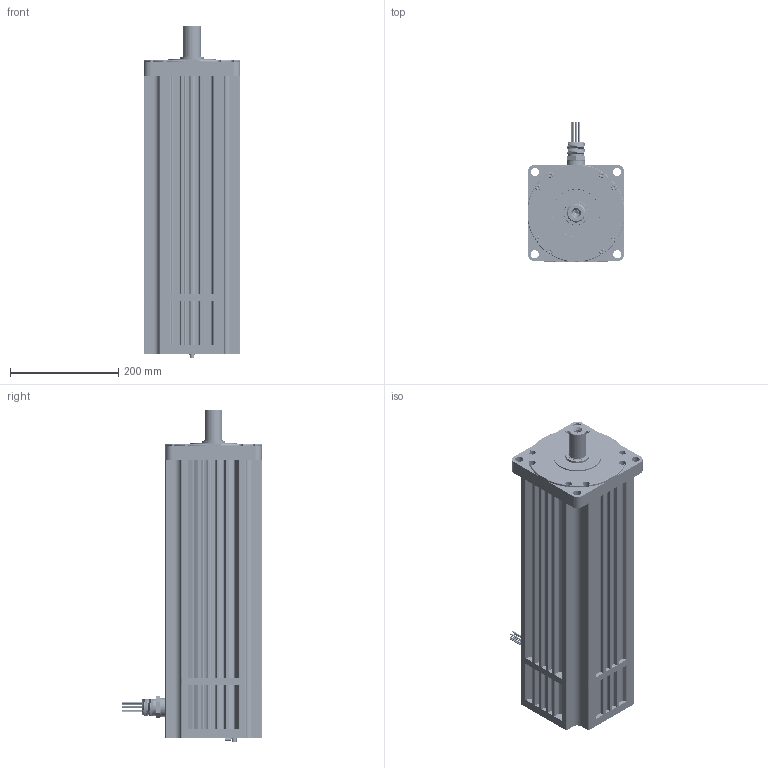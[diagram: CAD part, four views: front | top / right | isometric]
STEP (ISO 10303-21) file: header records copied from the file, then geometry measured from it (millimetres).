
FILE_DESCRIPTION (( 'STEP AP203' ), '1' );
FILE_NAME ('074640A.step', '2022-06-13T19:14:45', ( '' ), ( '' ), 'SwSTEP 2.0', 'SolidWorks 2019', '' );
FILE_SCHEMA (( 'CONFIG_CONTROL_DESIGN' ));
Length unit declared in the file: inch
Products named in the file (1): 074640A
Bounding box: 177.8 x 257.55 x 613.17 mm (x, y, z)
Surface area: 2089925 mm2 (no closed solid volume)
Topology: 0 solids, 166 shells, 6696 faces, 17479 edges, 11141 vertices
Faces by surface type: cylinder 2970, plane 2794, cone 483, torus 229, bspline 220
Entity records: 223504 total; most frequent: CARTESIAN_POINT 57133, DIRECTION 35824, ORIENTED_EDGE 34698, EDGE_CURVE 17349, AXIS2_PLACEMENT_3D 13369, VERTEX_POINT 11141, VECTOR 9086, LINE 9086
